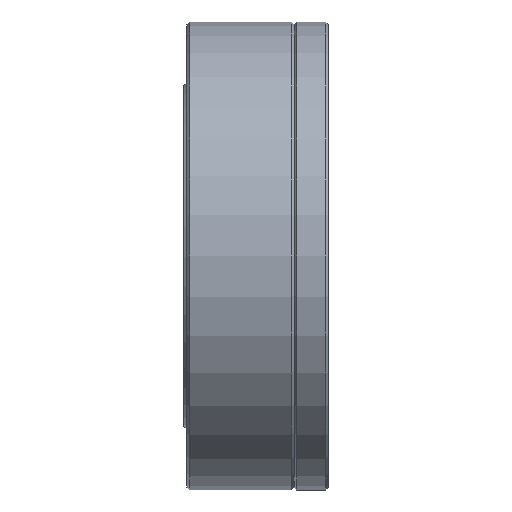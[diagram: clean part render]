
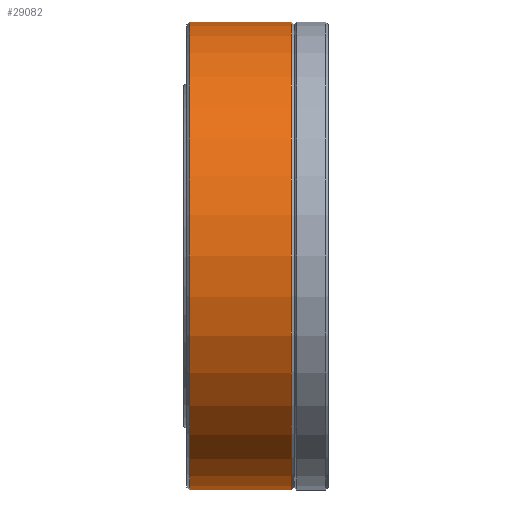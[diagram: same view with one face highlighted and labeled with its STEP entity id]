
A CAD part, front view. The second image highlights one B-rep face of the part: STEP entity #29082.
In plain terms, the highlighted cylindrical face has radius 40 mm (diameter 80 mm), a full revolution.
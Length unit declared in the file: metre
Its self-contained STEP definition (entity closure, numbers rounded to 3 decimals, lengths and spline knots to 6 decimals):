
#1570 = AXIS2_PLACEMENT_3D ( 'NONE', #15534, #31346, #13004 ) ;
#1668 = ORIENTED_EDGE ( 'NONE', *, *, #28128, .T. ) ;
#2096 = CARTESIAN_POINT ( 'NONE',  ( -0.013754, 0., 0.04 ) ) ;
#2820 = FACE_OUTER_BOUND ( 'NONE', #30988, .T. ) ;
#6227 = AXIS2_PLACEMENT_3D ( 'NONE', #10977, #28976, #13349 ) ;
#10267 = CIRCLE ( 'NONE', #1570, 0.04 ) ;
#10977 = CARTESIAN_POINT ( 'NONE',  ( -0.014254, 0., 0. ) ) ;
#13004 = DIRECTION ( 'NONE',  ( 0., 0., 1. ) ) ;
#13349 = DIRECTION ( 'NONE',  ( 0., 0., 1. ) ) ;
#15534 = CARTESIAN_POINT ( 'NONE',  ( 0.003646, 0., 0. ) ) ;
#15583 = AXIS2_PLACEMENT_3D ( 'NONE', #28890, #26862, #21236 ) ;
#17557 = CARTESIAN_POINT ( 'NONE',  ( 0.003646, 0., 0.04 ) ) ;
#18606 = FACE_OUTER_BOUND ( 'NONE', #19428, .T. ) ;
#18769 = CYLINDRICAL_SURFACE ( 'NONE', #6227, 0.04 ) ;
#19428 = EDGE_LOOP ( 'NONE', ( #32013 ) ) ;
#21236 = DIRECTION ( 'NONE',  ( 0., 0., 1. ) ) ;
#26862 = DIRECTION ( 'NONE',  ( 1., 0., 0. ) ) ;
#26910 = EDGE_CURVE ( 'NONE', #27776, #27776, #32959, .T. ) ;
#27776 = VERTEX_POINT ( 'NONE', #2096 ) ;
#27932 = VERTEX_POINT ( 'NONE', #17557 ) ;
#28128 = EDGE_CURVE ( 'NONE', #27932, #27932, #10267, .T. ) ;
#28890 = CARTESIAN_POINT ( 'NONE',  ( -0.013754, 0., 0. ) ) ;
#28976 = DIRECTION ( 'NONE',  ( -1., 0., 0. ) ) ;
#29082 = ADVANCED_FACE ( 'NONE', ( #2820, #18606 ), #18769, .T. ) ;
#30988 = EDGE_LOOP ( 'NONE', ( #1668 ) ) ;
#31346 = DIRECTION ( 'NONE',  ( -1., 0., 0. ) ) ;
#32013 = ORIENTED_EDGE ( 'NONE', *, *, #26910, .T. ) ;
#32959 = CIRCLE ( 'NONE', #15583, 0.04 ) ;
